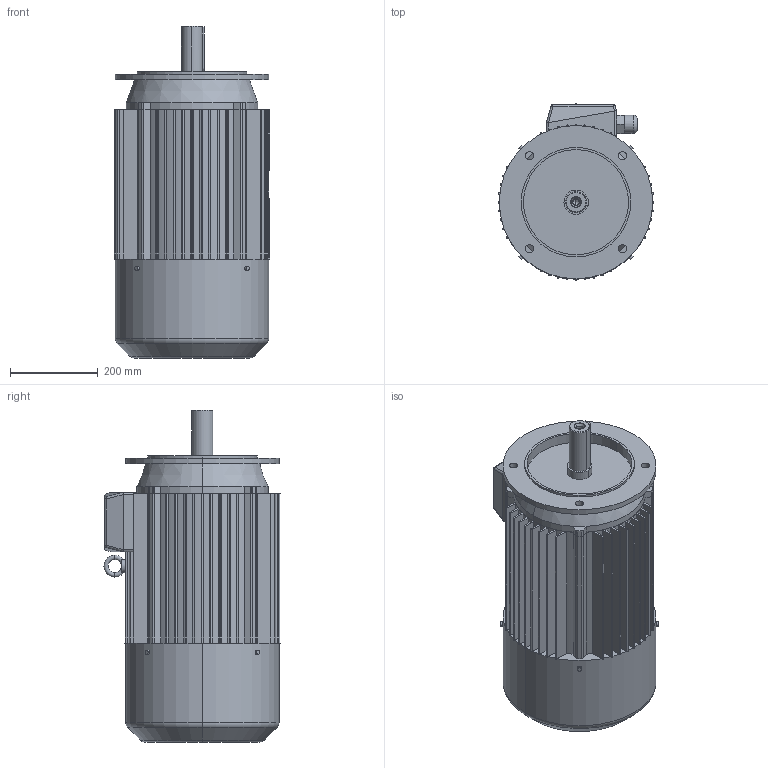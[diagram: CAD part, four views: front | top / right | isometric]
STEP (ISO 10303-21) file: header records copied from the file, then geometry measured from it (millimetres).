
FILE_DESCRIPTION (( 'STEP AP203' ), '1' );
FILE_NAME ('2SIEK180L2,4A,6A.STEP', '2013-01-07T13:35:15', ( 'INDUKTA' ), ( 'CANTONI MOTOR' ), 'SwSTEP 2.0', 'SolidWorks 2003064', '' );
FILE_SCHEMA (( 'CONFIG_CONTROL_DESIGN' ));
Length unit declared in the file: millimetre
Products named in the file (1): 2SIEK180L2,4A,6A
Bounding box: 354.99 x 402.49 x 758 mm (x, y, z)
Volume: 53889654.3 mm3; surface area: 2058099.7 mm2
Topology: 12 solids, 12 shells, 394 faces, 1037 edges, 665 vertices
Faces by surface type: cylinder 181, plane 179, torus 16, cone 14, sphere 4
Entity records: 12478 total; most frequent: CARTESIAN_POINT 2402, DIRECTION 2192, ORIENTED_EDGE 2062, EDGE_CURVE 1031, AXIS2_PLACEMENT_3D 791, VERTEX_POINT 665, LINE 610, VECTOR 610
